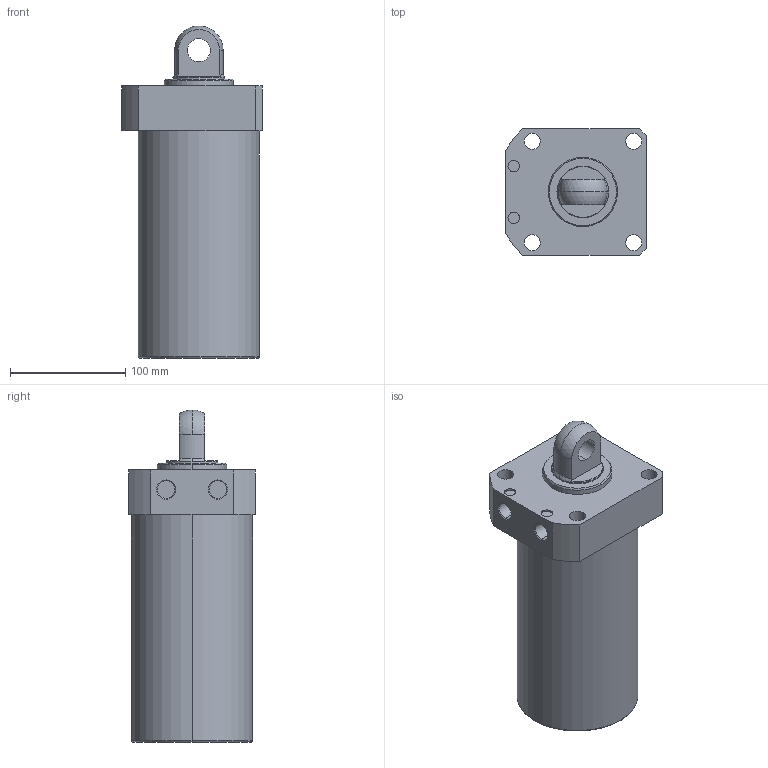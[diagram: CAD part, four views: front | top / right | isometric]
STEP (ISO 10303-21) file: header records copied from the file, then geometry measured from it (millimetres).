
FILE_DESCRIPTION (( 'STEP AP203' ), '1' );
FILE_NAME ('CLLR-105CP-150.STEP', '2019-12-18T08:21:08', ( '' ), ( '' ), 'SwSTEP 2.0', 'SolidWorks 2015', '' );
FILE_SCHEMA (( 'CONFIG_CONTROL_DESIGN' ));
Length unit declared in the file: millimetre
Products named in the file (1): CLLR-105CP-150
Bounding box: 122 x 110 x 288 mm (x, y, z)
Volume: 2231929.1 mm3; surface area: 122510.7 mm2
Topology: 1 solids, 1 shells, 59 faces, 139 edges, 89 vertices
Faces by surface type: cylinder 29, plane 18, cone 8, torus 2, sphere 2
Entity records: 1822 total; most frequent: DIRECTION 331, CARTESIAN_POINT 300, ORIENTED_EDGE 278, EDGE_CURVE 139, AXIS2_PLACEMENT_3D 136, VERTEX_POINT 89, CIRCLE 76, EDGE_LOOP 76
